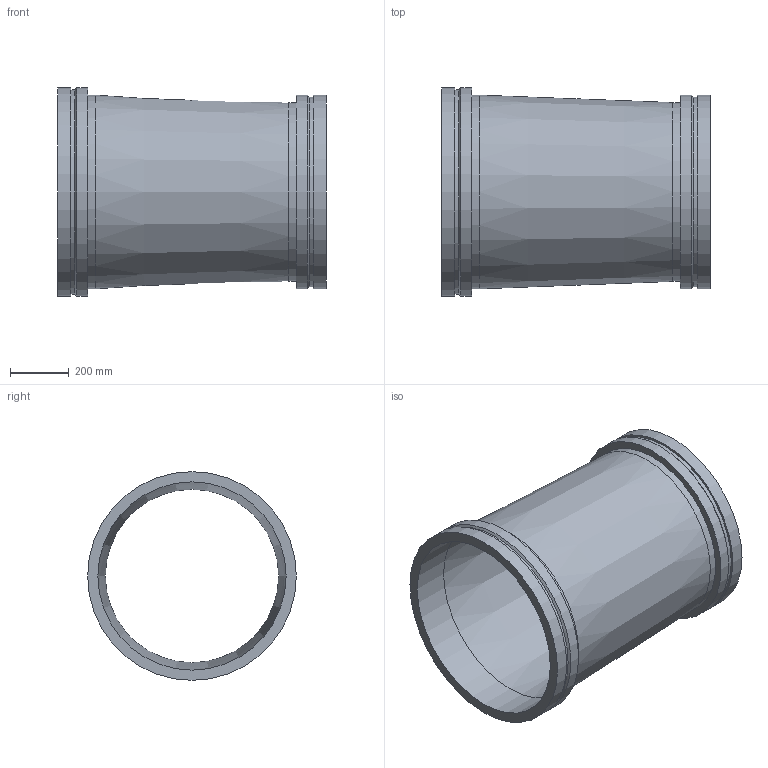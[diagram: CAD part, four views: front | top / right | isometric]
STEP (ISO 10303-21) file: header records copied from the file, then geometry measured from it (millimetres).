
FILE_DESCRIPTION(/* description */ ('VIC REDUCER CONCENTRIC No W50 VR','CAx-IF Rec.Pracs.---Representation and Presentation of Product Manufacturing Information (PMI)---4.0---2014-10-13'),/* implementation_level */ '2;1');
FILE_NAME(/* name */ 'C:\Users\kkamble\AppData\Roaming\Autodesk\ApplicationPlugins\Back Up\Victaulic_Vic-Ring_Reducer Concentric_No W50 VR (AGR)\Victaulic_Vic-Ring_Reducer Concentric_No W50 VR (AGR)_26.0x24.0 (650x600).stp',/* time_stamp */ '2020-09-10T11:46:02+05:00',/* author */ ('cps_temp'),/* organization */ ('Victaulic'),/* preprocessor_version */ 'ST-DEVELOPER v17.2',/* originating_system */ 'Autodesk Inventor 2019',/* authorisation */ '');
FILE_SCHEMA (('AP242_MANAGED_MODEL_BASED_3D_ENGINEERING_MIM_LF { 1 0 10303 442 1 1 4 }'));
Length unit declared in the file: inch
Products named in the file (1): W50 VR-26.0x24.0
Bounding box: 914.4 x 711.2 x 711.2 mm (x, y, z)
Volume: 27309046.1 mm3; surface area: 3919884.1 mm2
Topology: 1 solids, 1 shells, 20 faces, 54 edges, 40 vertices
Faces by surface type: cylinder 10, plane 6, cone 4
Full cylindrical faces by diameter (mm): 590.55 x1, 609.6 x1, 641.35 x1, 645.922 x1, 660.4 x3, 696.722 x1, 711.2 x2
Entity records: 830 total; most frequent: DIRECTION 162, CARTESIAN_POINT 132, ORIENTED_EDGE 108, AXIS2_PLACEMENT_3D 74, EDGE_CURVE 54, CIRCLE 40, VERTEX_POINT 40, EDGE_LOOP 26
